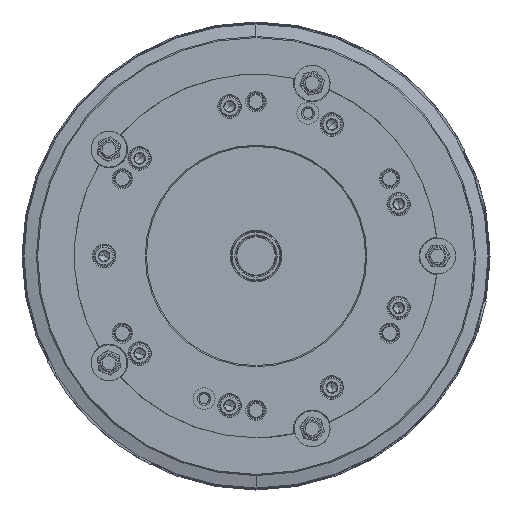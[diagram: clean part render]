
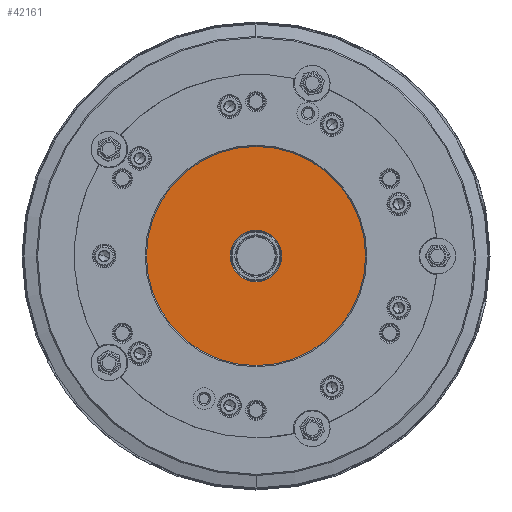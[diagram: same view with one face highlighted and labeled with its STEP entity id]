
A CAD part, left-side view. The second image highlights one B-rep face of the part: STEP entity #42161.
In plain terms, the highlighted planar face has unit normal (-1, 0, 0).
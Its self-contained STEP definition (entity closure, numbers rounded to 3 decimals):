
#158 = ORIENTED_EDGE ( 'NONE', *, *, #119343, .T. ) ;
#772 = AXIS2_PLACEMENT_3D ( 'NONE', #15016, #42874, #107762 ) ;
#1087 = CIRCLE ( 'NONE', #68913, 12.9 ) ;
#4632 = VERTEX_POINT ( 'NONE', #115492 ) ;
#6462 = DIRECTION ( 'NONE',  ( 0., 0., -1. ) ) ;
#8246 = DIRECTION ( 'NONE',  ( 1., 0., 0. ) ) ;
#13401 = CARTESIAN_POINT ( 'NONE',  ( -97., 0., 12.9 ) ) ;
#13864 = VERTEX_POINT ( 'NONE', #60279 ) ;
#15016 = CARTESIAN_POINT ( 'NONE',  ( -97., 0., 0. ) ) ;
#15601 = CARTESIAN_POINT ( 'NONE',  ( -97., 0., 0. ) ) ;
#18272 = EDGE_CURVE ( 'NONE', #103721, #13864, #78284, .T. ) ;
#18567 = DIRECTION ( 'NONE',  ( 0., 0., -1. ) ) ;
#30731 = FACE_OUTER_BOUND ( 'NONE', #106304, .T. ) ;
#32158 = EDGE_LOOP ( 'NONE', ( #158, #103556 ) ) ;
#34356 = DIRECTION ( 'NONE',  ( 1., 0., 0. ) ) ;
#42161 = ADVANCED_FACE ( 'NONE', ( #77423, #30731 ), #114440, .T. ) ;
#42874 = DIRECTION ( 'NONE',  ( 1., 0., 0. ) ) ;
#55010 = DIRECTION ( 'NONE',  ( 0., 0., -1. ) ) ;
#58052 = DIRECTION ( 'NONE',  ( 0., 0., 1. ) ) ;
#60279 = CARTESIAN_POINT ( 'NONE',  ( -97., 0., 55. ) ) ;
#68662 = CARTESIAN_POINT ( 'NONE',  ( -97., 0., -55. ) ) ;
#68913 = AXIS2_PLACEMENT_3D ( 'NONE', #15601, #34356, #6462 ) ;
#69368 = ORIENTED_EDGE ( 'NONE', *, *, #18272, .F. ) ;
#71321 = AXIS2_PLACEMENT_3D ( 'NONE', #118065, #8246, #18567 ) ;
#75098 = CIRCLE ( 'NONE', #71321, 55. ) ;
#77423 = FACE_BOUND ( 'NONE', #32158, .T. ) ;
#78284 = CIRCLE ( 'NONE', #772, 55. ) ;
#79057 = EDGE_CURVE ( 'NONE', #13864, #103721, #75098, .T. ) ;
#82297 = CARTESIAN_POINT ( 'NONE',  ( -97., 0., 0. ) ) ;
#87575 = AXIS2_PLACEMENT_3D ( 'NONE', #82297, #100469, #55010 ) ;
#87841 = CIRCLE ( 'NONE', #87575, 12.9 ) ;
#93635 = ORIENTED_EDGE ( 'NONE', *, *, #79057, .F. ) ;
#94435 = CARTESIAN_POINT ( 'NONE',  ( -97., 12.9, 0. ) ) ;
#95930 = EDGE_CURVE ( 'NONE', #4632, #97044, #87841, .T. ) ;
#97044 = VERTEX_POINT ( 'NONE', #13401 ) ;
#100469 = DIRECTION ( 'NONE',  ( 1., 0., 0. ) ) ;
#103556 = ORIENTED_EDGE ( 'NONE', *, *, #95930, .T. ) ;
#103721 = VERTEX_POINT ( 'NONE', #68662 ) ;
#106304 = EDGE_LOOP ( 'NONE', ( #69368, #93635 ) ) ;
#107762 = DIRECTION ( 'NONE',  ( 0., 0., -1. ) ) ;
#111879 = AXIS2_PLACEMENT_3D ( 'NONE', #94435, #115040, #58052 ) ;
#114440 = PLANE ( 'NONE',  #111879 ) ;
#115040 = DIRECTION ( 'NONE',  ( -1., 0., 0. ) ) ;
#115492 = CARTESIAN_POINT ( 'NONE',  ( -97., 0., -12.9 ) ) ;
#118065 = CARTESIAN_POINT ( 'NONE',  ( -97., 0., 0. ) ) ;
#119343 = EDGE_CURVE ( 'NONE', #97044, #4632, #1087, .T. ) ;
